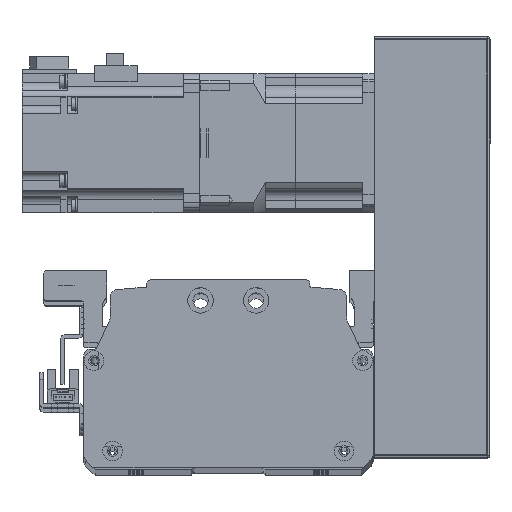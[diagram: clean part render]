
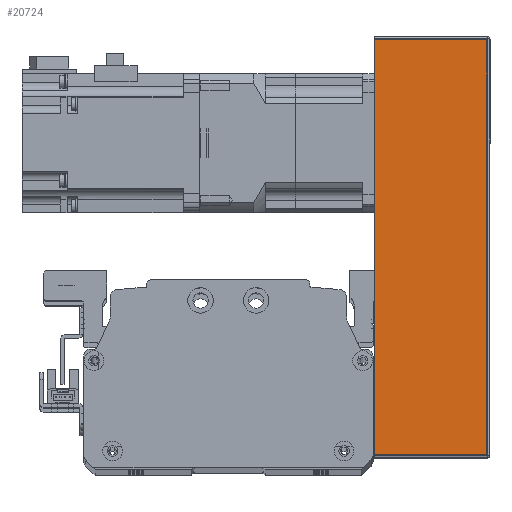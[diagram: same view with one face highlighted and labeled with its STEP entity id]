
A CAD part, top view. The second image highlights one B-rep face of the part: STEP entity #20724.
In plain terms, the highlighted planar face has unit normal (0, 0, 1) as drawn and (0, -1, 0) by its records, which use the part's own axes.
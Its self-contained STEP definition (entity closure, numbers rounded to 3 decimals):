
#563=PLANE('',#22751);
#1778=LINE('',#33804,#3402);
#1792=LINE('',#33856,#3416);
#1794=LINE('',#33864,#3418);
#1795=LINE('',#33866,#3419);
#3402=VECTOR('',#27481,10.);
#3416=VECTOR('',#27541,10.);
#3418=VECTOR('',#27555,10.);
#3419=VECTOR('',#27558,10.);
#5830=FACE_OUTER_BOUND('',#7318,.T.);
#7318=EDGE_LOOP('',(#17226,#17227,#17228,#17229));
#10218=VERTEX_POINT('',#33801);
#10219=VERTEX_POINT('',#33803);
#10233=VERTEX_POINT('',#33851);
#10234=VERTEX_POINT('',#33854);
#12678=EDGE_CURVE('',#10219,#10218,#1778,.T.);
#12706=EDGE_CURVE('',#10233,#10234,#1792,.T.);
#12710=EDGE_CURVE('',#10234,#10219,#1794,.T.);
#12711=EDGE_CURVE('',#10218,#10233,#1795,.T.);
#17226=ORIENTED_EDGE('',*,*,#12706,.T.);
#17227=ORIENTED_EDGE('',*,*,#12710,.T.);
#17228=ORIENTED_EDGE('',*,*,#12678,.T.);
#17229=ORIENTED_EDGE('',*,*,#12711,.T.);
#20724=ADVANCED_FACE('',(#5830),#563,.F.);
#22751=AXIS2_PLACEMENT_3D('',#33865,#27556,#27557);
#27481=DIRECTION('',(1.,0.,0.));
#27541=DIRECTION('',(-1.,0.,0.));
#27555=DIRECTION('',(0.,0.,-1.));
#27556=DIRECTION('center_axis',(0.,1.,0.));
#27557=DIRECTION('ref_axis',(1.,0.,0.));
#27558=DIRECTION('',(0.,0.,1.));
#33801=CARTESIAN_POINT('',(90.,-38.,-25.));
#33803=CARTESIAN_POINT('',(-90.,-38.,-25.));
#33804=CARTESIAN_POINT('',(91.,-38.,-25.));
#33851=CARTESIAN_POINT('',(90.,-38.,24.));
#33854=CARTESIAN_POINT('',(-90.,-38.,24.));
#33856=CARTESIAN_POINT('',(-45.5,-38.,24.));
#33864=CARTESIAN_POINT('',(-90.,-38.,0.));
#33865=CARTESIAN_POINT('Origin',(-91.,-38.,0.));
#33866=CARTESIAN_POINT('',(90.,-38.,0.));
